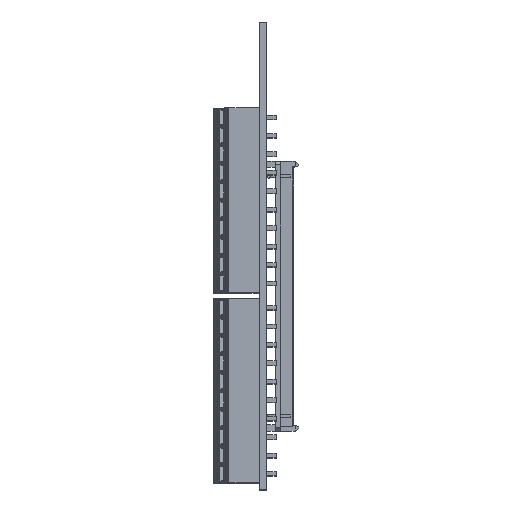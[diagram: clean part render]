
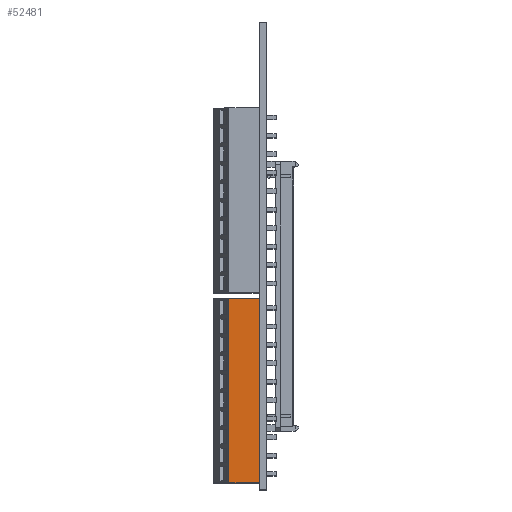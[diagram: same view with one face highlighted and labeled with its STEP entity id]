
A CAD part, top view. The second image highlights one B-rep face of the part: STEP entity #52481.
In plain terms, the highlighted planar face has unit normal (0, 0, 1).
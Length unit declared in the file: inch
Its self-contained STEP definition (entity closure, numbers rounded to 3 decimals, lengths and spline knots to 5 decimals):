
#849=DIRECTION('',(0.,1.,0.));
#850=VECTOR('',#849,1.5);
#851=CARTESIAN_POINT('',(0.,-0.075,3.5371));
#852=LINE('',#851,#850);
#17625=DIRECTION('',(1.,0.,0.));
#17626=VECTOR('',#17625,0.24606);
#17627=CARTESIAN_POINT('',(-0.24606,-0.075,3.5371));
#17628=LINE('',#17627,#17626);
#17629=DIRECTION('',(1.,0.,0.));
#17630=VECTOR('',#17629,0.24606);
#17631=CARTESIAN_POINT('',(-0.24606,1.425,3.5371));
#17632=LINE('',#17631,#17630);
#17645=DIRECTION('',(0.,1.,0.));
#17646=VECTOR('',#17645,1.5);
#17647=CARTESIAN_POINT('',(-0.24606,-0.075,3.5371));
#17648=LINE('',#17647,#17646);
#24289=CARTESIAN_POINT('',(-0.24606,-0.075,3.5371));
#24290=VERTEX_POINT('',#24289);
#24295=CARTESIAN_POINT('',(-0.24606,1.425,3.5371));
#24296=VERTEX_POINT('',#24295);
#24697=CARTESIAN_POINT('',(0.,-0.075,3.5371));
#24699=VERTEX_POINT('',#24697);
#24701=CARTESIAN_POINT('',(0.,1.425,3.5371));
#24703=VERTEX_POINT('',#24701);
#52469=CARTESIAN_POINT('',(-0.24606,-0.075,3.5371));
#52470=DIRECTION('',(0.,0.,1.));
#52471=DIRECTION('',(1.,0.,0.));
#52472=AXIS2_PLACEMENT_3D('',#52469,#52470,#52471);
#52473=PLANE('',#52472);
#52474=ORIENTED_EDGE('',*,*,#25730,.F.);
#52475=ORIENTED_EDGE('',*,*,#52434,.F.);
#52477=ORIENTED_EDGE('',*,*,#52476,.T.);
#52478=ORIENTED_EDGE('',*,*,#52459,.T.);
#52479=EDGE_LOOP('',(#52474,#52475,#52477,#52478));
#52480=FACE_OUTER_BOUND('',#52479,.F.);
#52481=ADVANCED_FACE('',(#52480),#52473,.T.);
#25730=EDGE_CURVE('',#24699,#24703,#852,.T.);
#52434=EDGE_CURVE('',#24290,#24699,#17628,.T.);
#52459=EDGE_CURVE('',#24296,#24703,#17632,.T.);
#52476=EDGE_CURVE('',#24290,#24296,#17648,.T.);
